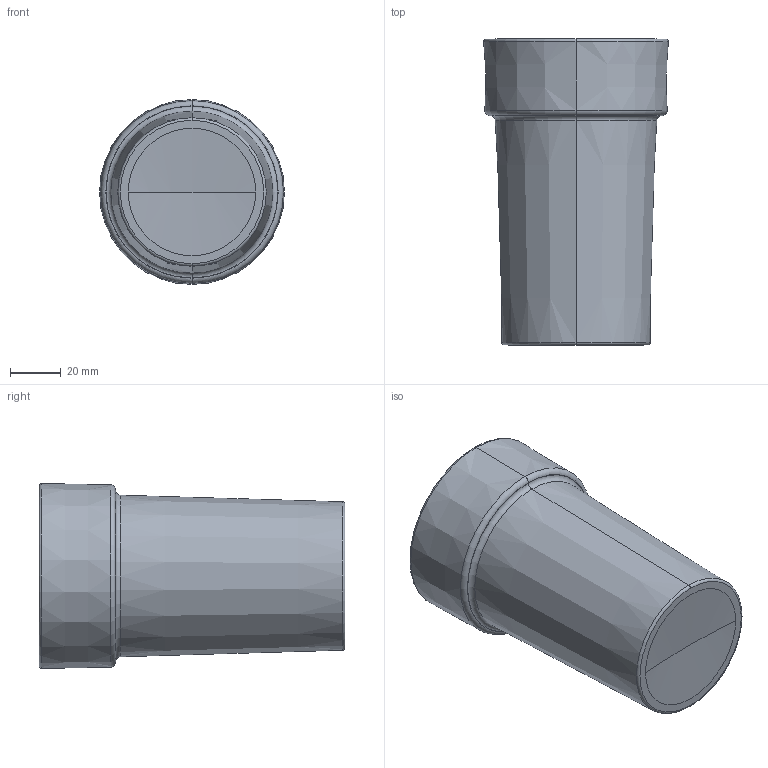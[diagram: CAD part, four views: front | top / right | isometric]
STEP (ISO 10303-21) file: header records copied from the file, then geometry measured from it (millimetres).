
FILE_DESCRIPTION (( 'STEP AP203' ), '1' );
FILE_NAME ('28011A-00-02.STEP', '2022-07-07T03:40:28', ( 'Windows User' ), ( 'P R C' ), 'SwSTEP 2.0', 'SolidWorks 2015', '' );
FILE_SCHEMA (( 'CONFIG_CONTROL_DESIGN' ));
Length unit declared in the file: millimetre
Products named in the file (1): 28011A-00-02
Bounding box: 72.51 x 120 x 72.51 mm (x, y, z)
Volume: 102773.9 mm3; surface area: 49768.2 mm2
Topology: 1 solids, 1 shells, 30 faces, 58 edges, 33 vertices
Faces by surface type: torus 16, cone 8, plane 4, sphere 2
Entity records: 853 total; most frequent: DIRECTION 170, CARTESIAN_POINT 122, ORIENTED_EDGE 116, AXIS2_PLACEMENT_3D 81, EDGE_CURVE 58, CIRCLE 50, VERTEX_POINT 33, EDGE_LOOP 33
